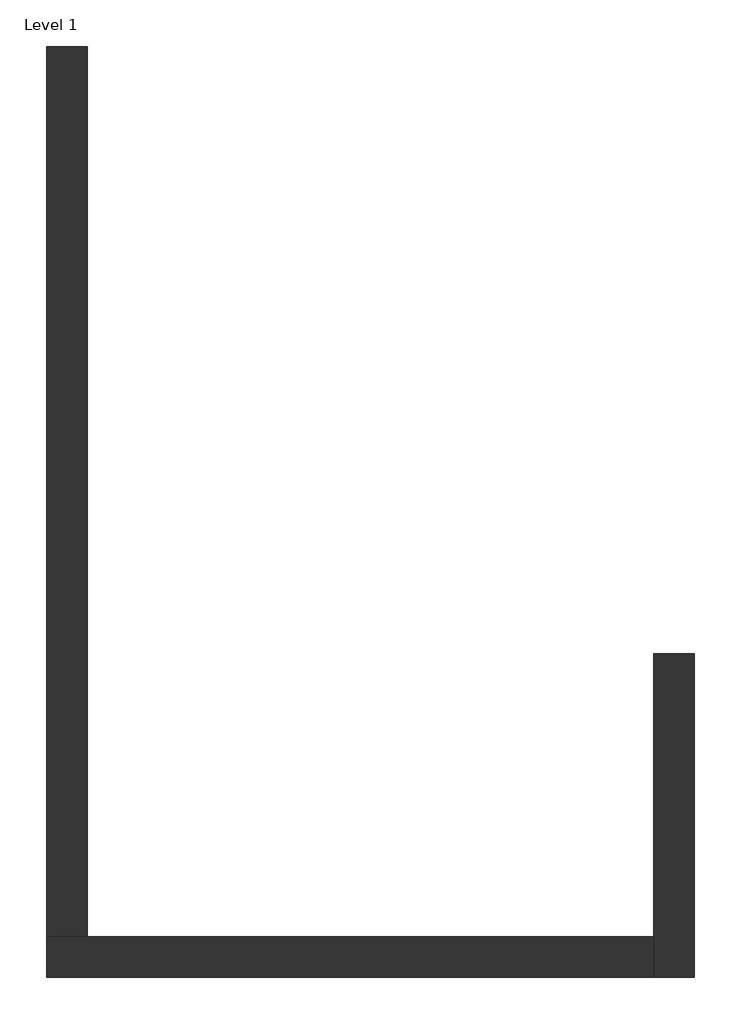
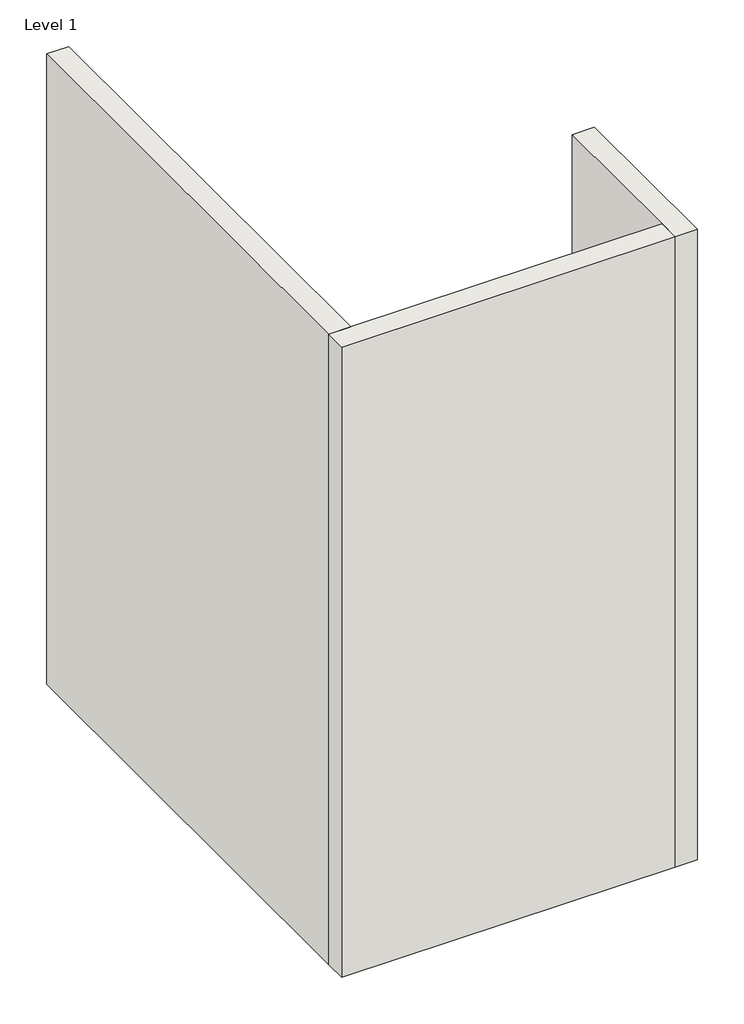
# One storey: 3 walls.
"""IFC4 building model written with IfcOpenShell, lengths in millimetres."""

from ifc_helpers import new_model, si_unit, origin, origin_with_axes, place, context, project, spatial, polyline, outline, extrude, faceted_brep, element, save

model = new_model("IFC4")

# Units and contexts
model_context = context("Model", 3, world=origin())
ifc_project = project(units=[si_unit("LENGTHUNIT", "METRE", prefix="MILLI")], contexts=[model_context])

# Site, building, storey
site = spatial("IfcSite", under=ifc_project)
building = spatial("IfcBuilding", under=site)
storey = spatial("IfcBuildingStorey", under=building, Name="Level 1", Elevation=0.0)

# Walls
placement = place(None, origin())
element("IfcWall", 1, ObjectType="Generic - 8\"", at=placement, inside=storey, context=model_context, shape_type="Brep", body=[
    faceted_brep([(4251.9122456, -2584.357364, 0.0), (4251.9122456, -4006.757364, 0.0), (4251.9122456, -4209.957364, 0.0), (4251.9122456, -4209.957364, 6096.0), (4251.9122456, -4006.757364, 6096.0), (4251.9122456, -2584.357364, 6096.0), (4455.1122456, -2584.357364, 0.0), (4455.1122456, -2584.357364, 6096.0), (4455.1122456, -4209.957364, 6096.0), (4455.1122456, -4209.957364, 0.0)], [[[0, 1, 2, 3, 4, 5]], [[6, 7, 8, 9]], [[2, 1, 0, 6, 9]], [[5, 4, 3, 8, 7]], [[0, 5, 7, 6]], [[3, 2, 9, 8]]]),
])
element("IfcWall", 2, ObjectType="Generic - 8\"", at=placement, inside=storey, context=model_context, shape_type="Brep", body=[
    faceted_brep([(4251.9122456, -4006.757364, 0.0), (1407.1122456, -4006.757364, 0.0), (1203.9122456, -4006.757364, 0.0), (1203.9122456, -4006.757364, 6096.0), (1407.1122456, -4006.757364, 6096.0), (4251.9122456, -4006.757364, 6096.0), (4251.9122456, -4209.957364, 0.0), (4251.9122456, -4209.957364, 6096.0), (1203.9122456, -4209.957364, 6096.0), (1203.9122456, -4209.957364, 0.0)], [[[0, 1, 2, 3, 4, 5]], [[6, 7, 8, 9]], [[2, 1, 0, 6, 9]], [[5, 4, 3, 8, 7]], [[3, 2, 9, 8]], [[0, 5, 7, 6]]]),
])
element("IfcWall", 3, ObjectType="Generic - 8\"", at=placement, inside=storey, context=model_context, shape_type="SweptSolid", body=[
    extrude(outline(polyline([(1407.1122456, 463.642636), (1407.1122456, -4006.757364), (1203.9122456, -4006.757364), (1203.9122456, 463.642636), (1407.1122456, 463.642636)])), origin_with_axes(), (0.0, 0.0, 1.0), 6096.0),
])

save(model, "model.ifc")
